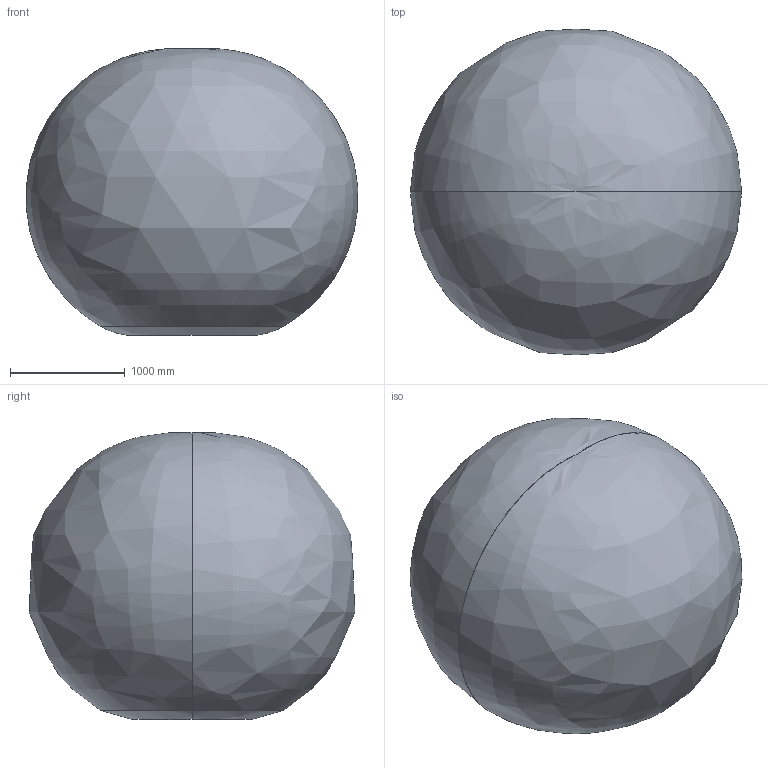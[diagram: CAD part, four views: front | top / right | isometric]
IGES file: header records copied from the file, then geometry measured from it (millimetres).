
Start section: SolidWorks IGES file using analytic representation for surfaces
Global section: file name: C:\Holley\Robot\IRB 1600\03-Simple CAD Model\IRB1600_X-145_working space.IGS; native system: SolidWorks 2024; preprocessor: SolidWorks 2024; author: CNHOCHE3; date: 251125.153501; units: millimetre
Bounding box: 2894.01 x 2842.62 x 2506.16 mm (x, y, z)
Surface area: 25606590.4 mm2 (no closed solid volume)
Topology: 0 solids, 0 shells, 12 faces, 48 edges, 40 vertices
Faces by surface type: bspline 12
